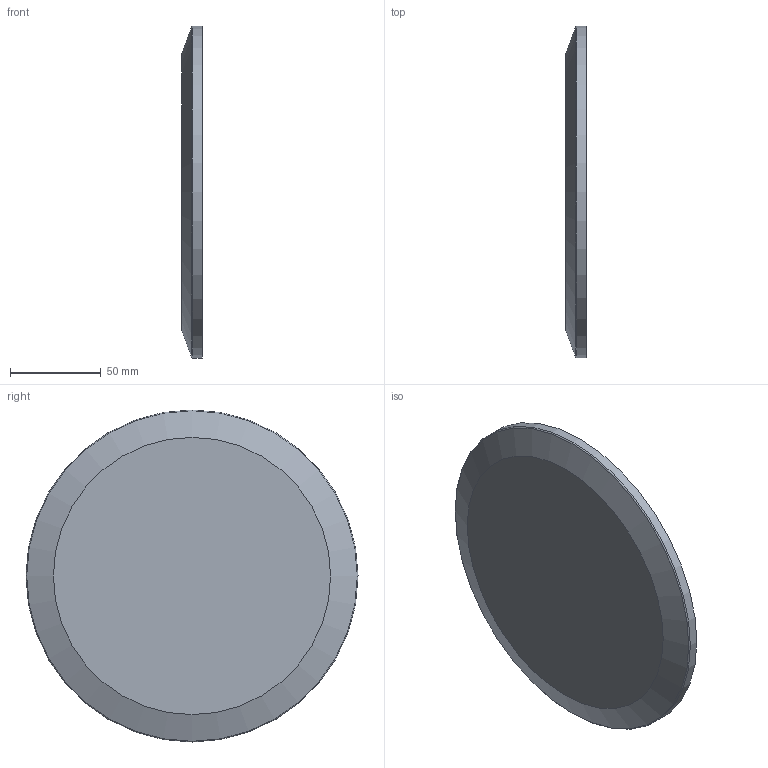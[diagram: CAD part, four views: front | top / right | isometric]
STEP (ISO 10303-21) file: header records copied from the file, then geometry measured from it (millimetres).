
FILE_DESCRIPTION(/* description */ (''),/* implementation_level */ '2;1');
FILE_NAME(/* name */ '12766-Ferrule size-183.stp',/* time_stamp */ '2024-12-26T21:15:05+01:00',/* author */ ('roger.thijssen'),/* organization */ (''),/* preprocessor_version */ 'ST-DEVELOPER v20',/* originating_system */ 'Autodesk Inventor 2025',/* authorisation */ '');
FILE_SCHEMA (('AUTOMOTIVE_DESIGN { 1 0 10303 214 3 1 1 }'));
Length unit declared in the file: millimetre
Products named in the file (1): 12766-Ferrule size-183
Bounding box: 11.1 x 183 x 183 mm (x, y, z)
Volume: 267430.1 mm3; surface area: 57073.2 mm2
Topology: 1 solids, 1 shells, 11 faces, 22 edges, 14 vertices
Faces by surface type: torus 4, plane 3, cone 3, cylinder 1
Full cylindrical faces by diameter (mm): 183 x1
Entity records: 361 total; most frequent: DIRECTION 64, CARTESIAN_POINT 48, ORIENTED_EDGE 44, AXIS2_PLACEMENT_3D 30, EDGE_CURVE 22, CIRCLE 18, VERTEX_POINT 14, EDGE_LOOP 12
